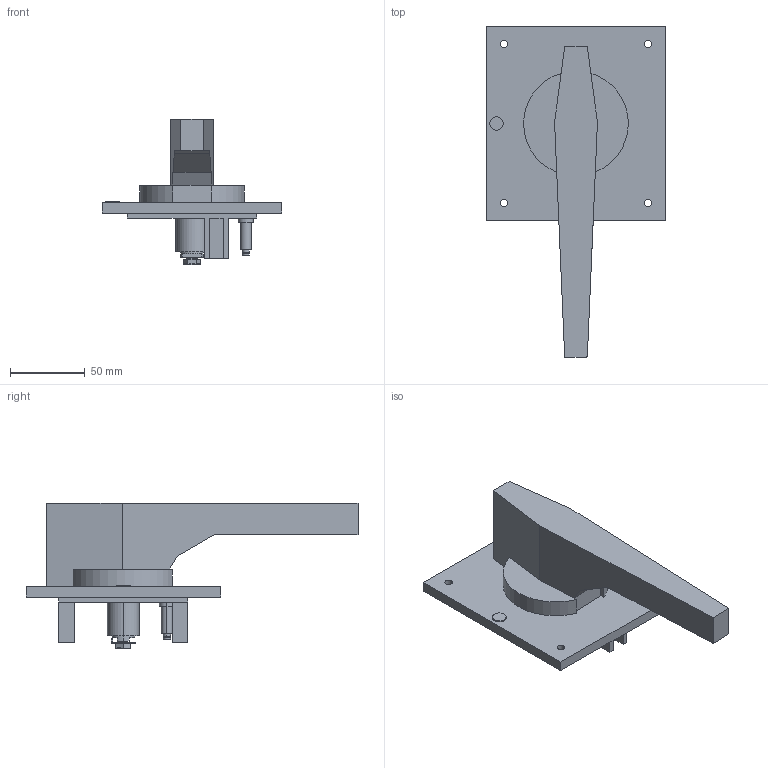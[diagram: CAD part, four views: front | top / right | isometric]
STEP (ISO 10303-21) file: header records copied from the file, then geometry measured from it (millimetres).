
FILE_DESCRIPTION (( 'STEP AP214' ), '1' );
FILE_NAME ('ÂÀ04-36 Ðóêîÿòêà.STEP', '2023-07-14T07:34:01', ( '' ), ( '' ), 'SwSTEP 2.0', 'SolidWorks 2018', '' );
FILE_SCHEMA (( 'AUTOMOTIVE_DESIGN' ));
Length unit declared in the file: millimetre
Products named in the file (1): ÂÀ04-36 Ðóêîÿòêà
Bounding box: 120 x 221.52 x 97.15 mm (x, y, z)
Volume: 341823.1 mm3; surface area: 64871.5 mm2
Topology: 1 solids, 1 shells, 107 faces, 270 edges, 178 vertices
Faces by surface type: plane 76, cylinder 31
Entity records: 4429 total; most frequent: CARTESIAN_POINT 556, DIRECTION 552, ORIENTED_EDGE 540, EDGE_CURVE 270, VECTOR 204, LINE 204, VERTEX_POINT 178, AXIS2_PLACEMENT_3D 174
